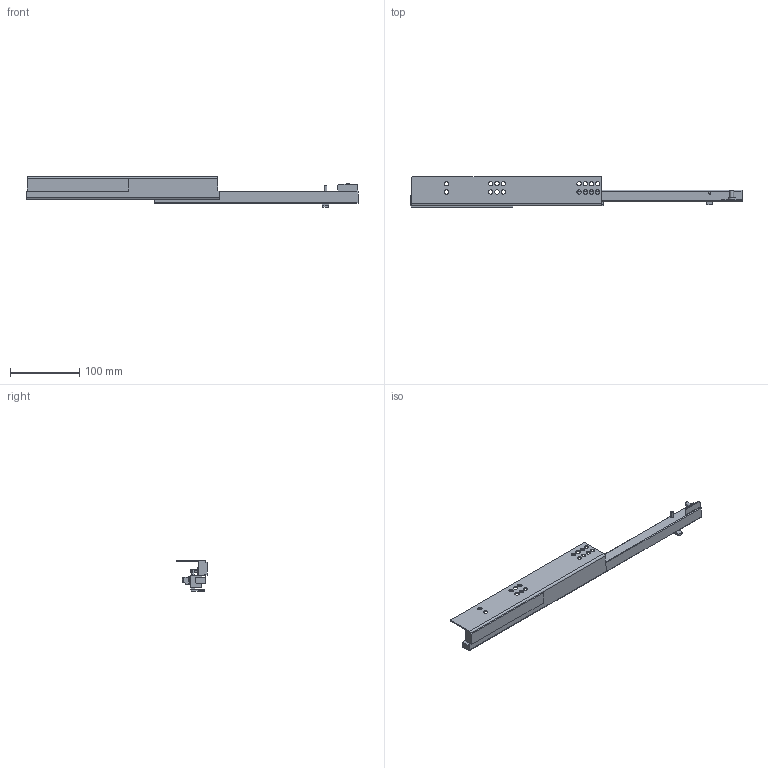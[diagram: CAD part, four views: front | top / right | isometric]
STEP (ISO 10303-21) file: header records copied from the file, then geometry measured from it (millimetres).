
FILE_DESCRIPTION (( 'STEP AP203' ), '1' );
FILE_NAME ('GG10350H-L-DTC3D-open.STEP', '2021-07-02T00:57:29', ( 'df' ), ( 'Microsoft' ), 'SwSTEP 2.0', 'SolidWorks 2018', '' );
FILE_SCHEMA (( 'CONFIG_CONTROL_DESIGN' ));
Length unit declared in the file: millimetre
Products named in the file (1): GG10350H-L-DTC3D-open
Bounding box: 481 x 44.1 x 44.73 mm (x, y, z)
Volume: 177113.7 mm3; surface area: 67909.3 mm2
Topology: 1 solids, 1 shells, 164 faces, 455 edges, 295 vertices
Faces by surface type: cylinder 80, plane 76, bspline 4, sphere 2, cone 2
Entity records: 5450 total; most frequent: CARTESIAN_POINT 1079, ORIENTED_EDGE 906, DIRECTION 895, EDGE_CURVE 453, AXIS2_PLACEMENT_3D 311, VERTEX_POINT 295, VECTOR 273, LINE 273
